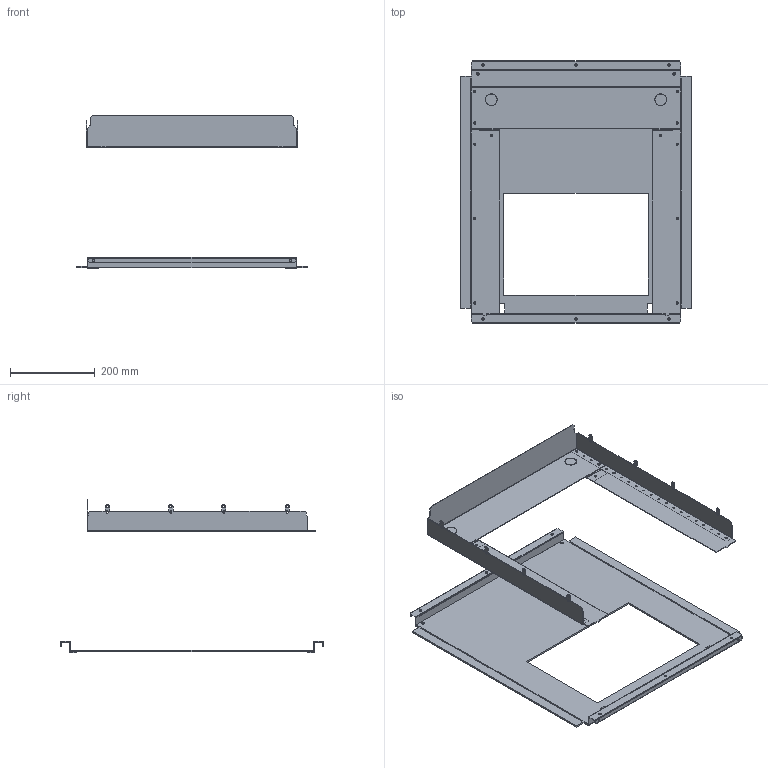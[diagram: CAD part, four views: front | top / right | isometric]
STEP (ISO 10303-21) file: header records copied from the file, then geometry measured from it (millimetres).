
FILE_DESCRIPTION(('CAx-IF Rec.Pracs.---Model Styling and Organization---1.2---2011-12-15','CAx-IF Rec.Pracs.---Geometric and Assembly Validation Properties---4.1---2014-06-16','CAx-IF Rec.Pracs.---PMI Polyline Presentation---2.0---2013-05-24'),'2;1');
FILE_NAME('R5FRC7V61522.stp','2021-07-29T02:05:31+03:00',(''),(''),'STEP Interface 4.4 by CT CoreTechnologie','3D_Evolution4.4 by CT CoreTechnologie','');
FILE_SCHEMA(('AUTOMOTIVE_DESIGN { 1 0 10303 214 1 1 1 1 }'));
Length unit declared in the file: millimetre
Products named in the file (1): R5FRC6V61522
Bounding box: 545 x 621 x 362 mm (x, y, z)
Surface area: 1025078.1 mm2 (no closed solid volume)
Topology: 0 solids, 10 shells, 513 faces, 1433 edges, 940 vertices
Faces by surface type: plane 275, cylinder 238
Entity records: 16959 total; most frequent: DIRECTION 2937, CARTESIAN_POINT 2887, ORIENTED_EDGE 2866, EDGE_CURVE 1433, AXIS2_PLACEMENT_3D 990, VECTOR 957, LINE 957, VERTEX_POINT 940
